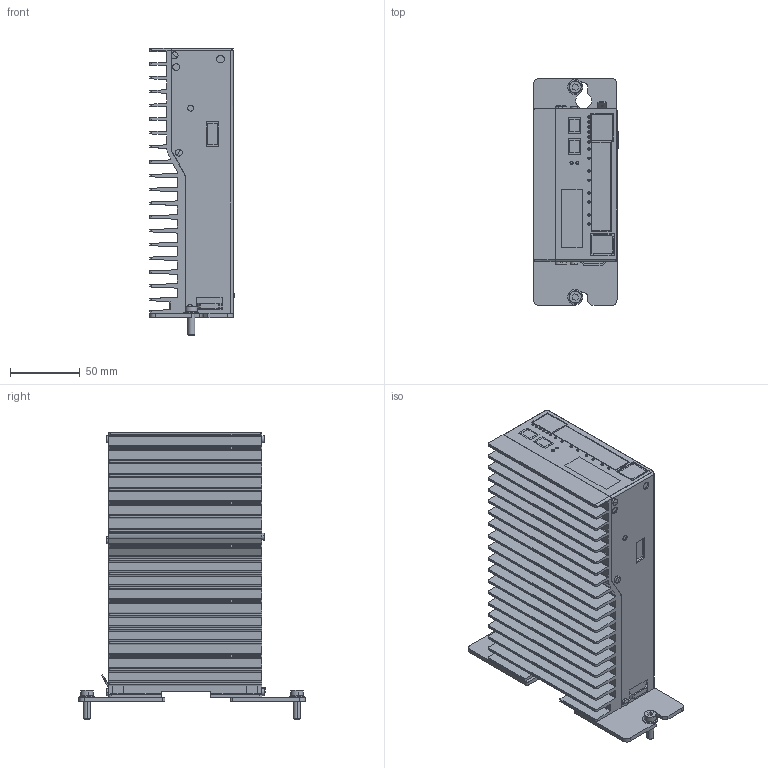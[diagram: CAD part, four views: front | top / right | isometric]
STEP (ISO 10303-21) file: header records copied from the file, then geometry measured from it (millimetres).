
FILE_DESCRIPTION (( 'STEP AP214' ), '1' );
FILE_NAME ('CP931 (01-20-004-931) Export20231122.STEP', '2023-11-22T16:51:06', ( 'Windows-Benutzer' ), ( '' ), 'SwSTEP 2.0', 'SolidWorks 2020', '' );
FILE_SCHEMA (( 'AUTOMOTIVE_DESIGN' ));
Length unit declared in the file: millimetre
Products named in the file (1): CP931 (01-20-004-931) Export20231122
Bounding box: 61.06 x 163 x 206.5 mm (x, y, z)
Volume: 1009058 mm3; surface area: 256731.1 mm2
Topology: 46 solids, 55 shells, 1172 faces, 2956 edges, 1896 vertices
Faces by surface type: plane 602, cylinder 470, cone 82, sphere 12, torus 4, bspline 2
Entity records: 49466 total; most frequent: CARTESIAN_POINT 7387, DIRECTION 5962, ORIENTED_EDGE 5880, EDGE_CURVE 2940, AXIS2_PLACEMENT_3D 2028, LINE 1906, VECTOR 1906, VERTEX_POINT 1896
